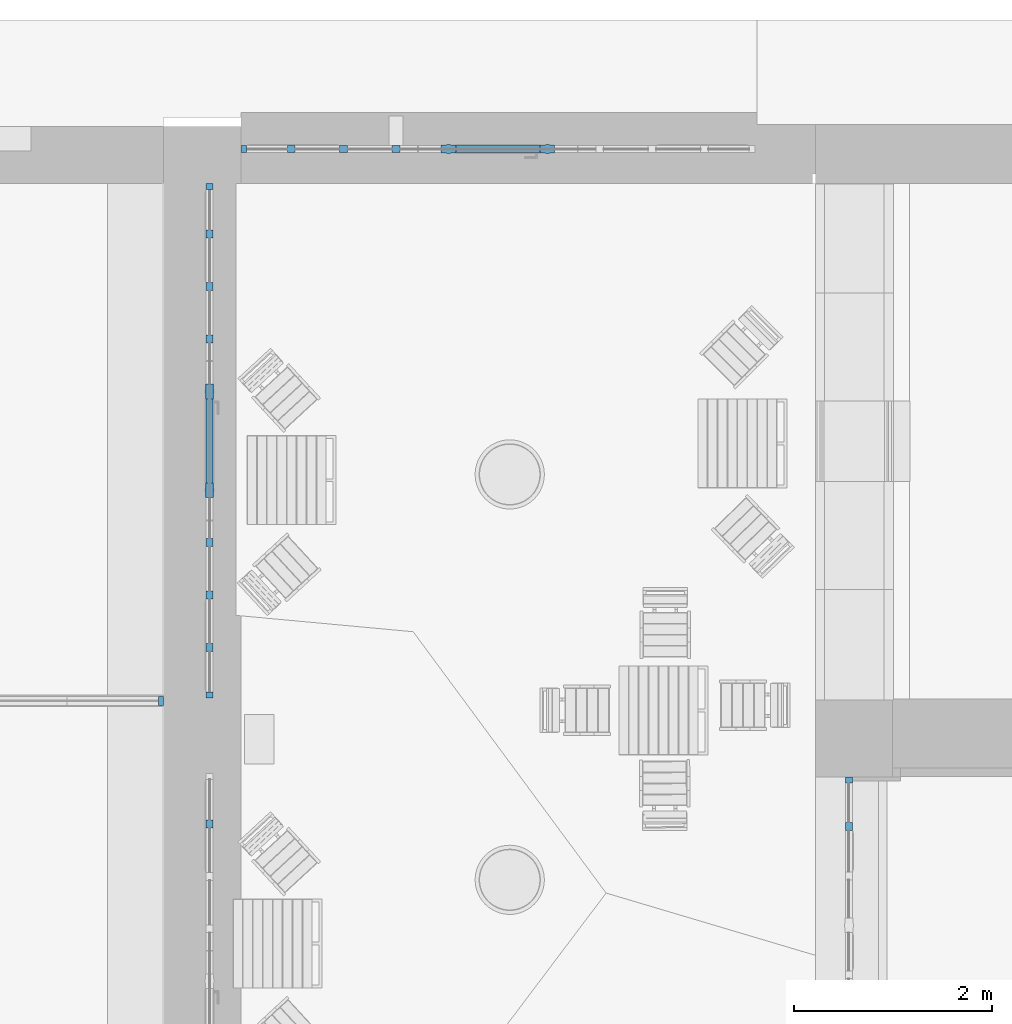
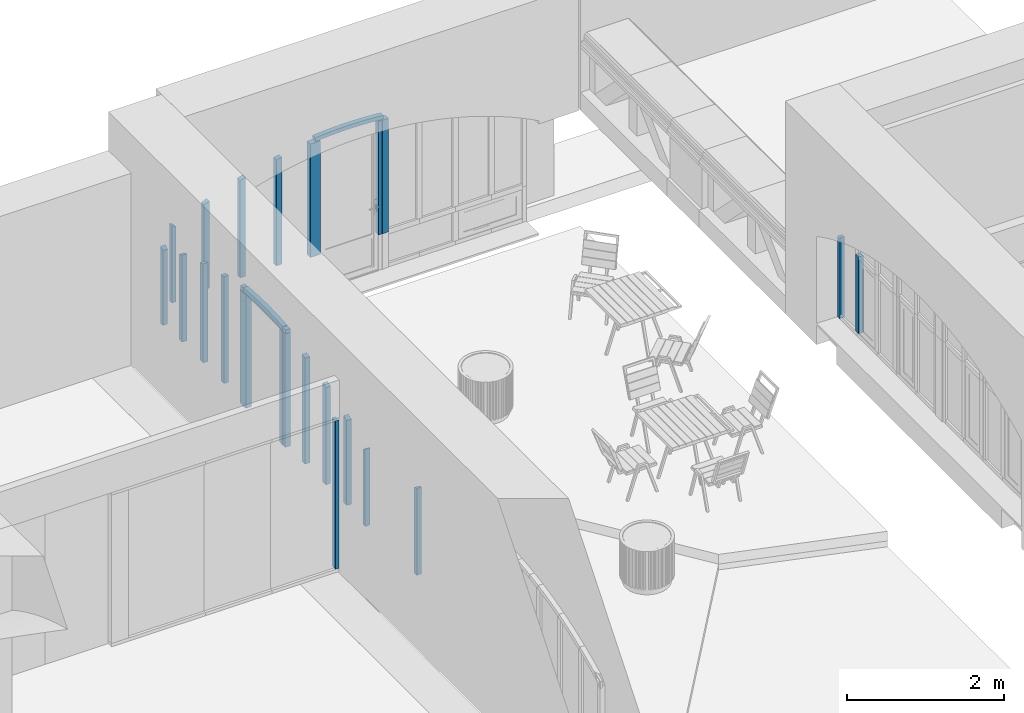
# One storey, part 14 of 88: 23 members, 5 elements without a shape of their own.
"""IFC2X3 building model written with IfcOpenShell, lengths in millimetres."""

from ifc_helpers import new_model, entity, si_unit, converted_unit, derived_unit, direction, frame, frame_2d, origin, origin_2d_with_axis, place, context, subcontext, project, spatial, polyline, circle_curve, parameter, trimmed, segment, composite_curve, rectangle, outline, extrude, source, transform, mapped, material, type_object, type_shapes, element, aggregate, save


model = new_model("IFC2X3")

# Units and contexts
model_context = context("Model", 3, precision=0.01, world=origin(), true_north=direction((6.123031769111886e-17, 1.0)))
body_context = subcontext(model_context, "Body", "Model", "MODEL_VIEW")
ifc_project = project(units=[si_unit("LENGTHUNIT", "METRE", prefix="MILLI"), si_unit("AREAUNIT", "SQUARE_METRE"), si_unit("VOLUMEUNIT", "CUBIC_METRE"), converted_unit("PLANEANGLEUNIT", "DEGREE", entity("IfcPlaneAngleMeasure", 0.017453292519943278), si_unit("PLANEANGLEUNIT", "RADIAN"), dimensions=[0, 0, 0, 0, 0, 0, 0]), si_unit("MASSUNIT", "GRAM", prefix="KILO"), derived_unit("MASSDENSITYUNIT", [(si_unit("MASSUNIT", "GRAM", prefix="KILO"), 1), (si_unit("LENGTHUNIT", "METRE"), -3)]), derived_unit("IONCONCENTRATIONUNIT", [(si_unit("MASSUNIT", "GRAM", prefix="KILO"), 1), (si_unit("LENGTHUNIT", "METRE"), -3)]), derived_unit("MOMENTOFINERTIAUNIT", [(si_unit("LENGTHUNIT", "METRE"), 4)]), si_unit("TIMEUNIT", "SECOND"), si_unit("FREQUENCYUNIT", "HERTZ"), si_unit("THERMODYNAMICTEMPERATUREUNIT", "DEGREE_CELSIUS"), derived_unit("THERMALTRANSMITTANCEUNIT", [(si_unit("MASSUNIT", "GRAM", prefix="KILO"), 1), (si_unit("THERMODYNAMICTEMPERATUREUNIT", "KELVIN"), -1), (si_unit("TIMEUNIT", "SECOND"), -3)]), derived_unit("THERMALCONDUCTANCEUNIT", [(si_unit("MASSUNIT", "GRAM", prefix="KILO"), 1), (si_unit("THERMODYNAMICTEMPERATUREUNIT", "KELVIN"), -1), (si_unit("TIMEUNIT", "SECOND"), -3), (si_unit("LENGTHUNIT", "METRE"), 1)]), derived_unit("VOLUMETRICFLOWRATEUNIT", [(si_unit("LENGTHUNIT", "METRE", prefix="DECI"), 3), (si_unit("TIMEUNIT", "SECOND"), -1)]), derived_unit("MASSFLOWRATEUNIT", [(si_unit("MASSUNIT", "GRAM", prefix="KILO"), 1), (si_unit("TIMEUNIT", "SECOND"), -1)]), derived_unit("ROTATIONALFREQUENCYUNIT", [(si_unit("TIMEUNIT", "SECOND"), -1)]), si_unit("ELECTRICCURRENTUNIT", "AMPERE"), si_unit("ELECTRICVOLTAGEUNIT", "VOLT"), si_unit("POWERUNIT", "WATT"), si_unit("FORCEUNIT", "NEWTON", prefix="KILO"), si_unit("ILLUMINANCEUNIT", "LUX"), si_unit("LUMINOUSFLUXUNIT", "LUMEN"), si_unit("LUMINOUSINTENSITYUNIT", "CANDELA"), si_unit("ENERGYUNIT", "JOULE"), derived_unit("USERDEFINED", [(si_unit("MASSUNIT", "GRAM", prefix="KILO"), -1), (si_unit("LENGTHUNIT", "METRE"), -2), (si_unit("TIMEUNIT", "SECOND"), 3), (si_unit("LUMINOUSFLUXUNIT", "LUMEN"), 1)]), derived_unit("USERDEFINED", [(si_unit("MASSUNIT", "GRAM", prefix="KILO"), 1), (si_unit("TIMEUNIT", "SECOND"), -3), (si_unit("LENGTHUNIT", "METRE"), 3), (si_unit("ELECTRICCURRENTUNIT", "AMPERE"), -2)]), derived_unit("SOUNDPOWERUNIT", [(si_unit("MASSUNIT", "GRAM", prefix="KILO"), 1), (si_unit("TIMEUNIT", "SECOND"), -3), (si_unit("LENGTHUNIT", "METRE"), 2)]), derived_unit("SOUNDPRESSUREUNIT", [(si_unit("MASSUNIT", "GRAM", prefix="KILO"), 1), (si_unit("LENGTHUNIT", "METRE"), -1), (si_unit("TIMEUNIT", "SECOND"), -2)]), derived_unit("LINEARVELOCITYUNIT", [(si_unit("LENGTHUNIT", "METRE"), 1), (si_unit("TIMEUNIT", "SECOND"), -1)]), si_unit("PRESSUREUNIT", "PASCAL"), derived_unit("USERDEFINED", [(si_unit("MASSUNIT", "GRAM", prefix="KILO"), 1), (si_unit("LENGTHUNIT", "METRE"), -2), (si_unit("TIMEUNIT", "SECOND"), -2)]), derived_unit("LINEARFORCEUNIT", [(si_unit("MASSUNIT", "GRAM", prefix="KILO"), 1), (si_unit("TIMEUNIT", "SECOND"), -2)]), derived_unit("PLANARFORCEUNIT", [(si_unit("MASSUNIT", "GRAM", prefix="KILO"), 1), (si_unit("LENGTHUNIT", "METRE"), -1), (si_unit("TIMEUNIT", "SECOND"), -2)]), derived_unit("SPECIFICHEATCAPACITYUNIT", [(si_unit("THERMODYNAMICTEMPERATUREUNIT", "KELVIN"), -1), (si_unit("LENGTHUNIT", "METRE"), 2), (si_unit("TIMEUNIT", "SECOND"), -2)]), derived_unit("HEATFLUXDENSITYUNIT", [(si_unit("MASSUNIT", "GRAM", prefix="KILO"), 1), (si_unit("TIMEUNIT", "SECOND"), -3)]), derived_unit("HEATINGVALUEUNIT", [(si_unit("LENGTHUNIT", "METRE"), 2), (si_unit("TIMEUNIT", "SECOND"), -2)]), derived_unit("VAPORPERMEABILITYUNIT", [(si_unit("LENGTHUNIT", "METRE"), -1), (si_unit("TIMEUNIT", "SECOND"), 1)]), derived_unit("DYNAMICVISCOSITYUNIT", [(si_unit("MASSUNIT", "GRAM", prefix="KILO"), 1), (si_unit("TIMEUNIT", "SECOND"), -1), (si_unit("LENGTHUNIT", "METRE"), -1)]), derived_unit("THERMALEXPANSIONCOEFFICIENTUNIT", [(si_unit("THERMODYNAMICTEMPERATUREUNIT", "KELVIN"), -1)]), derived_unit("MODULUSOFELASTICITYUNIT", [(si_unit("MASSUNIT", "GRAM", prefix="KILO"), 1), (si_unit("LENGTHUNIT", "METRE"), -1), (si_unit("TIMEUNIT", "SECOND"), -2)]), derived_unit("ISOTHERMALMOISTURECAPACITYUNIT", [(si_unit("MASSUNIT", "GRAM", prefix="KILO"), -1), (si_unit("LENGTHUNIT", "METRE"), 3)]), derived_unit("MOISTUREDIFFUSIVITYUNIT", [(si_unit("TIMEUNIT", "SECOND"), -1), (si_unit("LENGTHUNIT", "METRE"), 2)]), derived_unit("MASSPERLENGTHUNIT", [(si_unit("MASSUNIT", "GRAM", prefix="KILO"), 1), (si_unit("LENGTHUNIT", "METRE"), -1)]), derived_unit("THERMALRESISTANCEUNIT", [(si_unit("MASSUNIT", "GRAM", prefix="KILO"), -1), (si_unit("TIMEUNIT", "SECOND"), 3), (si_unit("THERMODYNAMICTEMPERATUREUNIT", "KELVIN"), 1)]), derived_unit("ACCELERATIONUNIT", [(si_unit("LENGTHUNIT", "METRE"), 1), (si_unit("TIMEUNIT", "SECOND"), -2)]), derived_unit("ANGULARVELOCITYUNIT", [(si_unit("TIMEUNIT", "SECOND"), -1), (si_unit("PLANEANGLEUNIT", "RADIAN"), 1)]), derived_unit("LINEARSTIFFNESSUNIT", [(si_unit("MASSUNIT", "GRAM", prefix="KILO"), 1), (si_unit("TIMEUNIT", "SECOND"), -2)]), derived_unit("WARPINGCONSTANTUNIT", [(si_unit("LENGTHUNIT", "METRE"), 6)]), derived_unit("LINEARMOMENTUNIT", [(si_unit("MASSUNIT", "GRAM", prefix="KILO"), 1), (si_unit("LENGTHUNIT", "METRE"), 1), (si_unit("TIMEUNIT", "SECOND"), -2)]), derived_unit("TORQUEUNIT", [(si_unit("MASSUNIT", "GRAM", prefix="KILO"), 1), (si_unit("LENGTHUNIT", "METRE"), 2), (si_unit("TIMEUNIT", "SECOND"), -2)])], contexts=[model_context])

# Site, building, storey
site_placement = place(None, origin())
site = spatial("IfcSite", under=ifc_project, at=site_placement, Name="Default", CompositionType="ELEMENT")
building_placement = place(site_placement, origin())
building = spatial("IfcBuilding", under=site, at=building_placement, Name="Eesti Rahvusraamatukogu hoone renoveerimise projekteerimistööd", CompositionType="ELEMENT")
storey_placement = place(building_placement, origin())
storey = spatial("IfcBuildingStorey", under=building, at=storey_placement, Name="1. korrus", CompositionType="ELEMENT", Elevation=0.0)

# Curtain wall, member
curtain_wall_type_1 = type_object("IfcCurtainWallType", Name="Curtain Wall:VLS Klaasvahesein profiilita 38db", PredefinedType="NOTDEFINED")
curtain_wall_1_placement = place(storey_placement, origin())
curtain_wall_1 = element("IfcCurtainWall", 1, at=curtain_wall_1_placement, inside=storey, type_object=curtain_wall_type_1, Name="Curtain Wall:VLS Klaasvahesein profiilita 38db", ObjectType="Curtain Wall:VLS Klaasvahesein profiilita 38db")
ifc_material_1 = material(Name="Aluminum")
member_type_1 = type_object("IfcMemberType", Name="Rectangular Mullion:50mm x 92mm", PredefinedType="MULLION", material=ifc_material_1)
shared_shape_1 = source(origin(), body_context, "Body", "SweptSolid", [
    extrude(rectangle(XDim=50.0, YDim=92.0, at=origin_2d_with_axis()), frame((-25.0, 0.0, -2300.0), z_axis=(0.0, 0.0, 1.0), x_axis=(-1.0, 0.0, 0.0)), (0.0, 0.0, 1.0), 2300.0),
])
type_shapes(member_type_1, [shared_shape_1])
member_1_placement = place(curtain_wall_1_placement, frame((-43370.0, 48760.37627987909, 2350.0)))
member_1 = element("IfcMember", 2, at=member_1_placement, type_object=member_type_1, material=ifc_material_1, Name="Rectangular Mullion:50mm x 92mm", ObjectType="Rectangular Mullion:50mm x 92mm", context=body_context, shape_type="MappedRepresentation", body=[
    mapped(shared_shape_1, transform((0.0, 0.0, 0.0), scale=1.0)),
])
aggregate(curtain_wall_1, [member_1])

# Curtain wall, members
curtain_wall_type_2 = type_object("IfcCurtainWallType", Name="Curtain Wall:Ak-02", PredefinedType="NOTDEFINED")
curtain_wall_2_placement = place(storey_placement, origin())
curtain_wall_2 = element("IfcCurtainWall", 3, at=curtain_wall_2_placement, inside=storey, type_object=curtain_wall_type_2, Name="Curtain Wall:Ak-02", ObjectType="Curtain Wall:Ak-02")
ifc_material_2 = material(Name="LUMION_dark steel window frames")
member_type_2 = type_object("IfcMemberType", Name="Rectangular Mullion:NEW 80x70mm", PredefinedType="MULLION", material=ifc_material_2)
shared_shape_2 = source(origin(), body_context, "Body", "SweptSolid", [
    extrude(rectangle(XDim=80.0, YDim=70.0, at=frame_2d((0.0, 3.552713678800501e-15), x_axis=(1.0, 0.0))), frame((0.0, 0.0, -1190.0), z_axis=(0.0, 0.0, 1.0), x_axis=(-1.0, 0.0, 0.0)), (0.0, 0.0, 1.0), 1189.9999999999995),
])
type_shapes(member_type_2, [shared_shape_2])
member_2_placement = place(curtain_wall_2_placement, frame((-36440.0, 47490.0, 2040.0), z_axis=(0.0, 0.0, -1.0), x_axis=(0.0, -1.0, 0.0)))
member_2 = element("IfcMember", 4, at=member_2_placement, type_object=member_type_2, material=ifc_material_2, Name="Rectangular Mullion:NEW 80x70mm", ObjectType="Rectangular Mullion:NEW 80x70mm", context=body_context, shape_type="MappedRepresentation", body=[
    mapped(shared_shape_2, transform((0.0, 0.0, 0.0), scale=1.0)),
])
member_type_3 = type_object("IfcMemberType", Name="Rectangular Mullion:NEW 60x70mm", PredefinedType="MULLION", material=ifc_material_2)
shared_shape_3 = source(origin(), body_context, "Body", "SweptSolid", [
    extrude(rectangle(XDim=60.0, YDim=70.0, at=frame_2d((0.0, 3.552713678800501e-15), x_axis=(1.0, 0.0))), frame((-30.0, 0.0, -1250.0), z_axis=(0.0, 0.0, 1.0), x_axis=(-1.0, 0.0, 0.0)), (0.0, 0.0, 1.0), 1249.9999999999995),
])
type_shapes(member_type_3, [shared_shape_3])
member_3_placement = place(curtain_wall_2_placement, frame((-36440.0, 47990.0, 3230.0), z_axis=(0.0, 0.0, 1.0), x_axis=(0.0, 1.0, 0.0)))
member_3 = element("IfcMember", 5, at=member_3_placement, type_object=member_type_3, material=ifc_material_2, Name="Rectangular Mullion:NEW 60x70mm", ObjectType="Rectangular Mullion:NEW 60x70mm", context=body_context, shape_type="MappedRepresentation", body=[
    mapped(shared_shape_3, transform((0.0, 0.0, 0.0), scale=1.0)),
])
aggregate(curtain_wall_2, [member_2, member_3])

# Curtain wall, member
curtain_wall_type_3 = type_object("IfcCurtainWallType", Name="Curtain Wall:Ak-05", PredefinedType="NOTDEFINED")
curtain_wall_3_placement = place(storey_placement, origin())
curtain_wall_3 = element("IfcCurtainWall", 6, at=curtain_wall_3_placement, inside=storey, type_object=curtain_wall_type_3, Name="Curtain Wall:Ak-05", ObjectType="Curtain Wall:Ak-05")
member_type_4 = type_object("IfcMemberType", Name="Rectangular Mullion:NEW 60x70mm", PredefinedType="MULLION", material=ifc_material_2)
shared_shape_4 = source(origin(), body_context, "Body", "SweptSolid", [
    extrude(outline(composite_curve([segment(polyline([(-75.01710683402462, -495.2424237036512), (-15.017106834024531, -495.2424237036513)]), True, "CONTINUOUS"), segment(trimmed(circle_curve(frame_2d((5448.26345993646, -495.24242370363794), x_axis=(-0.9836101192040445, 0.1803084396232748)), 5463.280566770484), [parameter(3.5622212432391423e-13)], [parameter(10.387726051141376)], True, "PARAMETER"), False, "CONTINUOUS"), segment(polyline([(74.52541041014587, 489.83317051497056), (15.508803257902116, 500.65167689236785)]), True, "CONTINUOUS"), segment(trimmed(circle_curve(frame_2d((5448.26345993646, -495.24242370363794), x_axis=(-0.9836101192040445, 0.1803084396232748)), 5523.280566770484), [parameter(3.5622212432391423e-13)], [parameter(10.387726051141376)], True, "PARAMETER"), True, "CONTINUOUS")], self_intersect=False)), frame((-75.01710683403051, -35.0, -495.2424237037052), z_axis=(0.0, 1.0, 0.0), x_axis=(-0.9836101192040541, 0.0, 0.18030843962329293)), (0.0, 0.0, 1.0), 69.99999999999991),
])
type_shapes(member_type_4, [shared_shape_4])
member_4_placement = place(curtain_wall_3_placement, frame((-42905.0, 50890.0, 2327.321965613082), z_axis=(0.0, -0.9958941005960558, -0.0905259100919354), x_axis=(0.0, -0.0905259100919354, 0.9958941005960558)))
member_4 = element("IfcMember", 7, at=member_4_placement, type_object=member_type_4, material=ifc_material_2, Name="Rectangular Mullion:NEW 60x70mm", ObjectType="Rectangular Mullion:NEW 60x70mm", context=body_context, shape_type="MappedRepresentation", body=[
    mapped(shared_shape_4, transform((0.0, 0.0, 0.0), scale=1.0)),
])

curtain_wall_4_placement = place(storey_placement, origin())
curtain_wall_4 = element("IfcCurtainWall", 8, at=curtain_wall_4_placement, inside=storey, type_object=curtain_wall_type_3, Name="Curtain Wall:Ak-05", ObjectType="Curtain Wall:Ak-05")
member_5_placement = place(curtain_wall_4_placement, frame((-40490.0, 54340.0, 2327.3219656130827), z_axis=(-0.9958941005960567, 0.0, -0.0905259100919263), x_axis=(-0.0905259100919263, 0.0, 0.9958941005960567)))
member_5 = element("IfcMember", 9, at=member_5_placement, type_object=member_type_4, material=ifc_material_2, Name="Rectangular Mullion:NEW 60x70mm", ObjectType="Rectangular Mullion:NEW 60x70mm", context=body_context, shape_type="MappedRepresentation", body=[
    mapped(shared_shape_4, transform((0.0, 0.0, 0.0), scale=1.0)),
])

# Member
member_type_5 = type_object("IfcMemberType", Name="Rectangular Mullion:NEW 150x90mm", PredefinedType="MULLION", material=ifc_material_2)
shared_shape_5 = source(origin(), body_context, "Body", "SweptSolid", [
    extrude(outline(polyline([(40.0, -20.0), (45.0, -20.0), (45.0, 20.0), (40.0, 20.0), (40.0, 75.0), (-40.0, 75.0), (-40.0, 20.0), (-45.0, 20.0), (-45.0, -20.0), (-40.0, -20.0), (-40.0, -75.0), (40.0, -75.0), (40.0, -20.0)])), frame((0.0, 0.0, -1760.0), z_axis=(0.0, 0.0, 1.0), x_axis=(0.0, -1.0, 0.0)), (0.0, 0.0, 1.0), 1759.9999999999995),
])
type_shapes(member_type_5, [shared_shape_5])
member_6_placement = place(curtain_wall_3_placement, frame((-42905.0, 51890.0, 500.0), z_axis=(0.0, 0.0, -1.0), x_axis=(0.0, -1.0, 0.0)))
member_6 = element("IfcMember", 10, at=member_6_placement, type_object=member_type_5, material=ifc_material_2, Name="Rectangular Mullion:NEW 150x90mm", ObjectType="Rectangular Mullion:NEW 150x90mm", context=body_context, shape_type="MappedRepresentation", body=[
    mapped(shared_shape_5, transform((0.0, 0.0, 0.0), scale=1.0)),
])

member_7_placement = place(curtain_wall_3_placement, frame((-42905.0, 50890.0, 500.0), z_axis=(0.0, 0.0, -1.0), x_axis=(0.0, -1.0, 0.0)))
member_7 = element("IfcMember", 11, at=member_7_placement, type_object=member_type_5, material=ifc_material_2, Name="Rectangular Mullion:NEW 150x90mm", ObjectType="Rectangular Mullion:NEW 150x90mm", context=body_context, shape_type="MappedRepresentation", body=[
    mapped(shared_shape_5, transform((0.0, 0.0, 0.0), scale=1.0)),
])

member_8_placement = place(curtain_wall_4_placement, frame((-39490.0, 54340.0, 500.0), z_axis=(0.0, 0.0, -1.0), x_axis=(-1.0, 0.0, 0.0)))
member_8 = element("IfcMember", 12, at=member_8_placement, type_object=member_type_5, material=ifc_material_2, Name="Rectangular Mullion:NEW 150x90mm", ObjectType="Rectangular Mullion:NEW 150x90mm", context=body_context, shape_type="MappedRepresentation", body=[
    mapped(shared_shape_5, transform((0.0, 0.0, 0.0), scale=1.0)),
])

member_9_placement = place(curtain_wall_4_placement, frame((-40490.0, 54340.0, 500.0), z_axis=(0.0, 0.0, -1.0), x_axis=(-1.0, 0.0, 0.0)))
member_9 = element("IfcMember", 13, at=member_9_placement, type_object=member_type_5, material=ifc_material_2, Name="Rectangular Mullion:NEW 150x90mm", ObjectType="Rectangular Mullion:NEW 150x90mm", context=body_context, shape_type="MappedRepresentation", body=[
    mapped(shared_shape_5, transform((0.0, 0.0, 0.0), scale=1.0)),
])

member_type_6 = type_object("IfcMemberType", Name="Rectangular Mullion:NEW 60x70mm", PredefinedType="MULLION", material=ifc_material_2)
shared_shape_6 = source(origin(), body_context, "Body", "SweptSolid", [
    extrude(outline(polyline([(-590.8870214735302, -30.0), (608.8836344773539, -30.0), (572.8904084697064, 30.0), (-590.8870214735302, 30.0), (-590.8870214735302, -30.0)])), frame((-30.0, -35.0, -590.8870214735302), z_axis=(0.0, 1.0, 0.0), x_axis=(0.0, 0.0, -1.0)), (0.0, 0.0, 1.0), 70.00000000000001),
])
type_shapes(member_type_6, [shared_shape_6])
member_10_placement = place(curtain_wall_3_placement, frame((-42905.0, 48790.0, 500.0), z_axis=(0.0, 0.0, -1.0), x_axis=(0.0, -1.0, 0.0)))
member_10 = element("IfcMember", 14, at=member_10_placement, type_object=member_type_6, material=ifc_material_2, Name="Rectangular Mullion:NEW 60x70mm", ObjectType="Rectangular Mullion:NEW 60x70mm", context=body_context, shape_type="MappedRepresentation", body=[
    mapped(shared_shape_6, transform((0.0, 0.0, 0.0), scale=1.0)),
])

member_11_placement = place(curtain_wall_4_placement, frame((-42590.0, 54340.0, 500.0), z_axis=(0.0, 0.0, -1.0), x_axis=(-1.0, 0.0, 0.0)))
member_11 = element("IfcMember", 15, at=member_11_placement, type_object=member_type_6, material=ifc_material_2, Name="Rectangular Mullion:NEW 60x70mm", ObjectType="Rectangular Mullion:NEW 60x70mm", context=body_context, shape_type="MappedRepresentation", body=[
    mapped(shared_shape_6, transform((0.0, 0.0, 0.0), scale=1.0)),
])

member_type_7 = type_object("IfcMemberType", Name="Rectangular Mullion:NEW 60x70mm", PredefinedType="MULLION", material=ifc_material_2)
shared_shape_7 = source(origin(), body_context, "Body", "SweptSolid", [
    extrude(outline(polyline([(-608.8836344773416, -30.0), (590.8870214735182, -30.0), (590.8870214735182, 30.0), (-572.8904084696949, 30.0), (-608.8836344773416, -30.0)])), frame((-30.0, -35.0, -608.8836344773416), z_axis=(0.0, 1.0, 0.0), x_axis=(0.0, 0.0, -1.0)), (0.0, 0.0, 1.0), 70.00000000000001),
])
type_shapes(member_type_7, [shared_shape_7])
member_12_placement = place(curtain_wall_3_placement, frame((-42905.0, 53990.0, 1699.7706559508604), z_axis=(0.0, 0.0, 1.0), x_axis=(0.0, 1.0, 0.0)))
member_12 = element("IfcMember", 16, at=member_12_placement, type_object=member_type_7, material=ifc_material_2, Name="Rectangular Mullion:NEW 60x70mm", ObjectType="Rectangular Mullion:NEW 60x70mm", context=body_context, shape_type="MappedRepresentation", body=[
    mapped(shared_shape_7, transform((0.0, 0.0, 0.0), scale=1.0)),
])

member_type_8 = type_object("IfcMemberType", Name="Rectangular Mullion:NEW 60x70mm", PredefinedType="MULLION", material=ifc_material_2)
shared_shape_8 = source(origin(), body_context, "Body", "SweptSolid", [
    extrude(rectangle(XDim=60.0, YDim=70.0, at=frame_2d((0.0, -3.552713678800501e-15), x_axis=(1.0, 0.0))), frame((0.0, 0.0, -1150.0), z_axis=(0.0, 0.0, 1.0), x_axis=(-1.0, 0.0, 0.0)), (0.0, 0.0, 1.0), 1149.9999999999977),
])
type_shapes(member_type_8, [shared_shape_8])
member_13_placement = place(curtain_wall_3_placement, frame((-42905.0, 50815.0, 2290.0), z_axis=(0.0, -1.0, 0.0), x_axis=(0.0, 0.0, 1.0)))
member_13 = element("IfcMember", 17, at=member_13_placement, type_object=member_type_8, material=ifc_material_2, Name="Rectangular Mullion:NEW 60x70mm", ObjectType="Rectangular Mullion:NEW 60x70mm", context=body_context, shape_type="MappedRepresentation", body=[
    mapped(shared_shape_8, transform((0.0, 0.0, 0.0), scale=1.0)),
])

member_type_9 = type_object("IfcMemberType", Name="Rectangular Mullion:NEW 80x70mm", PredefinedType="MULLION", material=ifc_material_2)
shared_shape_9 = source(origin(), body_context, "Body", "SweptSolid", [
    extrude(outline(composite_curve([segment(polyline([(-802.4490834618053, -44.54077965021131), (515.2279674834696, -44.54077965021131)]), True, "CONTINUOUS"), segment(trimmed(circle_curve(frame_2d((-4515.729650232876, 2085.4592203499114), x_axis=(0.8822747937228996, -0.4707347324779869)), 5463.280566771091), [parameter(5.135238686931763)], [parameter(5.847495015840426)], True, "PARAMETER"), True, "CONTINUOUS"), segment(trimmed(circle_curve(frame_2d((-4515.729650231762, 2085.4592203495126), x_axis=(0.9256428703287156, -0.3783983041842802)), 5463.280566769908), [parameter(0.0)], [parameter(0.1958264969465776)], True, "PARAMETER"), True, "CONTINUOUS"), segment(polyline([(548.3531444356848, 35.45922034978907), (-802.4490834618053, 35.45922034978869)]), True, "CONTINUOUS"), segment(polyline([(-802.4490834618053, 35.45922034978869), (-802.4490834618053, -44.54077965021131)]), True, "CONTINUOUS")], self_intersect=False)), frame((-4.540779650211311, -35.0, -802.4490834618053), z_axis=(0.0, 1.0, 0.0), x_axis=(0.0, 0.0, -1.0)), (0.0, 0.0, 1.0), 69.99999999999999),
])
type_shapes(member_type_9, [shared_shape_9])
member_14_placement = place(curtain_wall_3_placement, frame((-42905.0, 49300.0, 540.0), z_axis=(0.0, 0.0, -1.0), x_axis=(0.0, -1.0, 0.0)))
member_14 = element("IfcMember", 18, at=member_14_placement, type_object=member_type_9, material=ifc_material_2, Name="Rectangular Mullion:NEW 80x70mm", ObjectType="Rectangular Mullion:NEW 80x70mm", context=body_context, shape_type="MappedRepresentation", body=[
    mapped(shared_shape_9, transform((0.0, 0.0, 0.0), scale=1.0)),
])

member_15_placement = place(curtain_wall_4_placement, frame((-42080.0, 54340.0, 540.0), z_axis=(0.0, 0.0, -1.0), x_axis=(-1.0, 0.0, 0.0)))
member_15 = element("IfcMember", 19, at=member_15_placement, type_object=member_type_9, material=ifc_material_2, Name="Rectangular Mullion:NEW 80x70mm", ObjectType="Rectangular Mullion:NEW 80x70mm", context=body_context, shape_type="MappedRepresentation", body=[
    mapped(shared_shape_9, transform((0.0, 0.0, 0.0), scale=1.0)),
])

member_type_10 = type_object("IfcMemberType", Name="Rectangular Mullion:NEW 80x70mm", PredefinedType="MULLION", material=ifc_material_2)
shared_shape_10 = source(origin(), body_context, "Body", "SweptSolid", [
    extrude(outline(composite_curve([segment(polyline([(-914.4623251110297, -43.389290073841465), (595.9947117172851, -43.389290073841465)]), True, "CONTINUOUS"), segment(trimmed(circle_curve(frame_2d((-4627.7428918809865, 1556.6107099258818), x_axis=(0.9256428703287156, -0.37839830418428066)), 5463.280566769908), [parameter(5.204987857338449)], [parameter(5.828569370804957)], True, "PARAMETER"), True, "CONTINUOUS"), segment(trimmed(circle_curve(frame_2d((-4627.74289188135, 1556.6107099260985), x_axis=(0.9592847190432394, -0.28244083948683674)), 5463.280566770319), [parameter(0.0)], [parameter(0.25187197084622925)], True, "PARAMETER"), True, "CONTINUOUS"), segment(polyline([(619.8312668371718, 36.61070992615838), (-914.4623251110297, 36.610709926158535)]), True, "CONTINUOUS"), segment(polyline([(-914.4623251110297, 36.610709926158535), (-914.4623251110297, -43.389290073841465)]), True, "CONTINUOUS")], self_intersect=False)), frame((-3.389290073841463, -35.0, -914.4623251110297), z_axis=(0.0, 1.0, 0.0), x_axis=(0.0, 0.0, -1.0)), (0.0, 0.0, 1.0), 69.99999999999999),
])
type_shapes(member_type_10, [shared_shape_10])
member_16_placement = place(curtain_wall_3_placement, frame((-42905.0, 49830.0, 540.0), z_axis=(0.0, 0.0, -1.0), x_axis=(0.0, -1.0, 0.0)))
member_16 = element("IfcMember", 20, at=member_16_placement, type_object=member_type_10, material=ifc_material_2, Name="Rectangular Mullion:NEW 80x70mm", ObjectType="Rectangular Mullion:NEW 80x70mm", context=body_context, shape_type="MappedRepresentation", body=[
    mapped(shared_shape_10, transform((0.0, 0.0, 0.0), scale=1.0)),
])

member_17_placement = place(curtain_wall_4_placement, frame((-41550.0, 54340.0, 540.0), z_axis=(0.0, 0.0, -1.0), x_axis=(-1.0, 0.0, 0.0)))
member_17 = element("IfcMember", 21, at=member_17_placement, type_object=member_type_10, material=ifc_material_2, Name="Rectangular Mullion:NEW 80x70mm", ObjectType="Rectangular Mullion:NEW 80x70mm", context=body_context, shape_type="MappedRepresentation", body=[
    mapped(shared_shape_10, transform((0.0, 0.0, 0.0), scale=1.0)),
])

member_type_11 = type_object("IfcMemberType", Name="Rectangular Mullion:NEW 80x70mm", PredefinedType="MULLION", material=ifc_material_2)
shared_shape_11 = source(origin(), body_context, "Body", "SweptSolid", [
    extrude(outline(composite_curve([segment(polyline([(-991.582057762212, -42.23780049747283), (652.61201854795, -42.23780049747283)]), True, "CONTINUOUS"), segment(trimmed(circle_curve(frame_2d((-4704.862624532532, 1027.7621995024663), x_axis=(0.9592847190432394, -0.28244083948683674)), 5463.280566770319), [parameter(5.111376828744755)], [parameter(5.658307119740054)], True, "PARAMETER"), True, "CONTINUOUS"), segment(trimmed(circle_curve(frame_2d((-4704.862624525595, 1027.7621995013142), x_axis=(0.9824581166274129, -0.18648337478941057)), 5463.2805667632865), [parameter(0.0)], [parameter(0.3073932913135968)], True, "PARAMETER"), True, "CONTINUOUS"), segment(polyline([(667.9703852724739, 37.76219950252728), (-991.582057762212, 37.76219950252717)]), True, "CONTINUOUS"), segment(polyline([(-991.582057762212, 37.76219950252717), (-991.582057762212, -42.23780049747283)]), True, "CONTINUOUS")], self_intersect=False)), frame((-2.237800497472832, -35.0, -991.582057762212), z_axis=(0.0, 1.0, 0.0), x_axis=(0.0, 0.0, -1.0)), (0.0, 0.0, 1.0), 70.00000000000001),
])
type_shapes(member_type_11, [shared_shape_11])
member_18_placement = place(curtain_wall_3_placement, frame((-42905.0, 50360.0, 540.0), z_axis=(0.0, 0.0, -1.0), x_axis=(0.0, -1.0, 0.0)))
member_18 = element("IfcMember", 22, at=member_18_placement, type_object=member_type_11, material=ifc_material_2, Name="Rectangular Mullion:NEW 80x70mm", ObjectType="Rectangular Mullion:NEW 80x70mm", context=body_context, shape_type="MappedRepresentation", body=[
    mapped(shared_shape_11, transform((0.0, 0.0, 0.0), scale=1.0)),
])

member_19_placement = place(curtain_wall_4_placement, frame((-41020.0, 54340.0, 540.0), z_axis=(0.0, 0.0, -1.0), x_axis=(-1.0, 0.0, 0.0)))
member_19 = element("IfcMember", 23, at=member_19_placement, type_object=member_type_11, material=ifc_material_2, Name="Rectangular Mullion:NEW 80x70mm", ObjectType="Rectangular Mullion:NEW 80x70mm", context=body_context, shape_type="MappedRepresentation", body=[
    mapped(shared_shape_11, transform((0.0, 0.0, 0.0), scale=1.0)),
])

aggregate(curtain_wall_4, [member_5, member_8, member_9, member_11, member_15, member_17, member_19])

member_type_12 = type_object("IfcMemberType", Name="Rectangular Mullion:NEW 80x70mm", PredefinedType="MULLION", material=ifc_material_2)
shared_shape_12 = source(origin(), body_context, "Body", "SweptSolid", [
    extrude(outline(composite_curve([segment(polyline([(-991.5820577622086, -37.76219950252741), (667.9703852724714, -37.76219950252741)]), True, "CONTINUOUS"), segment(trimmed(circle_curve(frame_2d((-4704.862624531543, -1027.7621995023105), x_axis=(0.9891368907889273, 0.14699731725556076)), 5463.280566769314), [parameter(1.9872788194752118)], [parameter(2.294672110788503)], True, "PARAMETER"), True, "CONTINUOUS"), segment(trimmed(circle_curve(frame_2d((-4704.862624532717, -1027.7621995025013), x_axis=(0.9824581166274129, 0.18648337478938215)), 5463.280566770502), [parameter(0.0)], [parameter(0.546930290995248)], True, "PARAMETER"), True, "CONTINUOUS"), segment(polyline([(652.6120185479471, 42.23780049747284), (-991.5820577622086, 42.23780049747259)]), True, "CONTINUOUS"), segment(polyline([(-991.5820577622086, 42.23780049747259), (-991.5820577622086, -37.76219950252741)]), True, "CONTINUOUS")], self_intersect=False)), frame((2.237800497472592, -35.0, -991.5820577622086), z_axis=(0.0, 1.0, 0.0), x_axis=(0.0, 0.0, -1.0)), (0.0, 0.0, 1.0), 69.99999999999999),
])
type_shapes(member_type_12, [shared_shape_12])
member_20_placement = place(curtain_wall_3_placement, frame((-42905.0, 52420.0, 540.0), z_axis=(0.0, 0.0, -1.0), x_axis=(0.0, -1.0, 0.0)))
member_20 = element("IfcMember", 24, at=member_20_placement, type_object=member_type_12, material=ifc_material_2, Name="Rectangular Mullion:NEW 80x70mm", ObjectType="Rectangular Mullion:NEW 80x70mm", context=body_context, shape_type="MappedRepresentation", body=[
    mapped(shared_shape_12, transform((0.0, 0.0, 0.0), scale=1.0)),
])

member_type_13 = type_object("IfcMemberType", Name="Rectangular Mullion:NEW 80x70mm", PredefinedType="MULLION", material=ifc_material_2)
shared_shape_13 = source(origin(), body_context, "Body", "SweptSolid", [
    extrude(outline(composite_curve([segment(polyline([(-914.4623251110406, -36.610709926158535), (619.8312668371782, -36.610709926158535)]), True, "CONTINUOUS"), segment(trimmed(circle_curve(frame_2d((-4627.742891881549, -1556.6107099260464), x_axis=(0.9824581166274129, 0.18648337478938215)), 5463.280566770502), [parameter(5.406435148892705)], [parameter(5.658307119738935)], True, "PARAMETER"), True, "CONTINUOUS"), segment(trimmed(circle_curve(frame_2d((-4627.742891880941, -1556.6107099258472), x_axis=(0.9592847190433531, 0.28244083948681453)), 5463.280566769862), [parameter(0.0)], [parameter(0.6235815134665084)], True, "PARAMETER"), True, "CONTINUOUS"), segment(polyline([(595.9947117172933, 43.38929007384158), (-914.4623251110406, 43.389290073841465)]), True, "CONTINUOUS"), segment(polyline([(-914.4623251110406, 43.389290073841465), (-914.4623251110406, -36.610709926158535)]), True, "CONTINUOUS")], self_intersect=False)), frame((3.389290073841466, -35.0, -914.4623251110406), z_axis=(0.0, 1.0, 0.0), x_axis=(0.0, 0.0, -1.0)), (0.0, 0.0, 1.0), 69.99999999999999),
])
type_shapes(member_type_13, [shared_shape_13])
member_21_placement = place(curtain_wall_3_placement, frame((-42905.0, 52950.0, 540.0), z_axis=(0.0, 0.0, -1.0), x_axis=(0.0, -1.0, 0.0)))
member_21 = element("IfcMember", 25, at=member_21_placement, type_object=member_type_13, material=ifc_material_2, Name="Rectangular Mullion:NEW 80x70mm", ObjectType="Rectangular Mullion:NEW 80x70mm", context=body_context, shape_type="MappedRepresentation", body=[
    mapped(shared_shape_13, transform((0.0, 0.0, 0.0), scale=1.0)),
])

member_type_14 = type_object("IfcMemberType", Name="Rectangular Mullion:NEW 80x70mm", PredefinedType="MULLION", material=ifc_material_2)
shared_shape_14 = source(origin(), body_context, "Body", "SweptSolid", [
    extrude(outline(composite_curve([segment(polyline([(-802.4490834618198, -35.45922034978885), (548.3531444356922, -35.45922034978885)]), True, "CONTINUOUS"), segment(trimmed(circle_curve(frame_2d((-4515.72965023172, -2085.459220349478), x_axis=(0.9592847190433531, 0.28244083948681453)), 5463.280566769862), [parameter(5.63274287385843)], [parameter(5.828569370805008)], True, "PARAMETER"), True, "CONTINUOUS"), segment(trimmed(circle_curve(frame_2d((-4515.729650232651, -2085.4592203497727), x_axis=(0.9256428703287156, 0.37839830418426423)), 5463.280566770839), [parameter(0.0)], [parameter(0.7122563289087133)], True, "PARAMETER"), True, "CONTINUOUS"), segment(polyline([(515.2279674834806, 44.54077965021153), (-802.4490834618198, 44.54077965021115)]), True, "CONTINUOUS"), segment(polyline([(-802.4490834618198, 44.54077965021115), (-802.4490834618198, -35.45922034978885)]), True, "CONTINUOUS")], self_intersect=False)), frame((4.540779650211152, -35.0, -802.4490834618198), z_axis=(0.0, 1.0, 0.0), x_axis=(0.0, 0.0, -1.0)), (0.0, 0.0, 1.0), 70.00000000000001),
])
type_shapes(member_type_14, [shared_shape_14])
member_22_placement = place(curtain_wall_3_placement, frame((-42905.0, 53480.0, 540.0), z_axis=(0.0, 0.0, -1.0), x_axis=(0.0, -1.0, 0.0)))
member_22 = element("IfcMember", 26, at=member_22_placement, type_object=member_type_14, material=ifc_material_2, Name="Rectangular Mullion:NEW 80x70mm", ObjectType="Rectangular Mullion:NEW 80x70mm", context=body_context, shape_type="MappedRepresentation", body=[
    mapped(shared_shape_14, transform((0.0, 0.0, 0.0), scale=1.0)),
])

aggregate(curtain_wall_3, [member_4, member_6, member_7, member_10, member_12, member_13, member_14, member_16, member_18, member_20, member_21, member_22])

# Curtain wall, member
curtain_wall_5_placement = place(storey_placement, origin())
curtain_wall_5 = element("IfcCurtainWall", 27, at=curtain_wall_5_placement, inside=storey, type_object=curtain_wall_type_3, Name="Curtain Wall:Ak-05", ObjectType="Curtain Wall:Ak-05")
member_23_placement = place(curtain_wall_5_placement, frame((-42905.0, 47515.0, 540.0), z_axis=(0.0, 0.0, -1.0), x_axis=(0.0, -1.0, 0.0)))
member_23 = element("IfcMember", 28, at=member_23_placement, type_object=member_type_14, material=ifc_material_2, Name="Rectangular Mullion:NEW 80x70mm", ObjectType="Rectangular Mullion:NEW 80x70mm", context=body_context, shape_type="MappedRepresentation", body=[
    mapped(shared_shape_14, transform((0.0, 0.0, 0.0), scale=1.0)),
])
aggregate(curtain_wall_5, [member_23])

save(model, "model.ifc")
